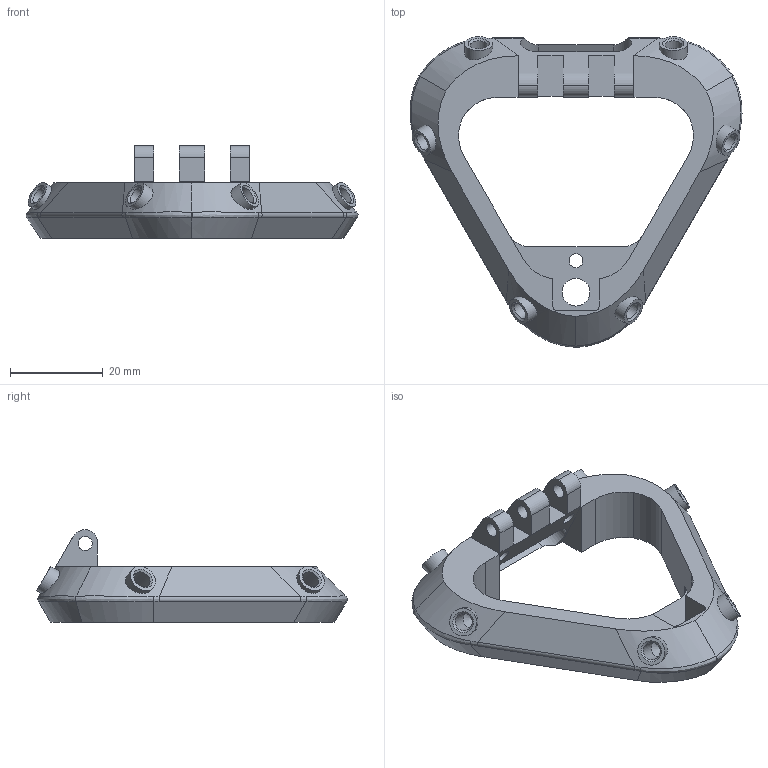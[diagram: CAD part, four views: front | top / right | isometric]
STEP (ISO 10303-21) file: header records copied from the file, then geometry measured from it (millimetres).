
FILE_DESCRIPTION( ( '' ), ' ' );
FILE_NAME( '/vol/tmp/translate-2867212124154959137/589d3316876aac0fbabf0df0.step', '2017-02-10T03:27:19', ( '' ), ( '' ), ' ', ' ', ' ' );
FILE_SCHEMA( ( 'AUTOMOTIVE_DESIGN { 1 0 10303 214 1 1 1 1 }' ) );
Length unit declared in the file: metre
Products named in the file (1): Part 3
Bounding box: 71.61 x 66.98 x 20 mm (x, y, z)
Volume: 16447.2 mm3; surface area: 8770.9 mm2
Topology: 1 solids, 1 shells, 127 faces, 339 edges, 217 vertices
Faces by surface type: cylinder 53, plane 42, bspline 18, cone 14
Full cylindrical faces by diameter (mm): 3 x3, 3.059 x3, 3.75 x6, 6 x7
Entity records: 6476 total; most frequent: CARTESIAN_POINT 2470, DIRECTION 624, ORIENTED_EDGE 578, EDGE_CURVE 289, AXIS2_PLACEMENT_3D 248, VERTEX_POINT 208, EDGE_LOOP 177, FACE_OUTER_BOUND 146
